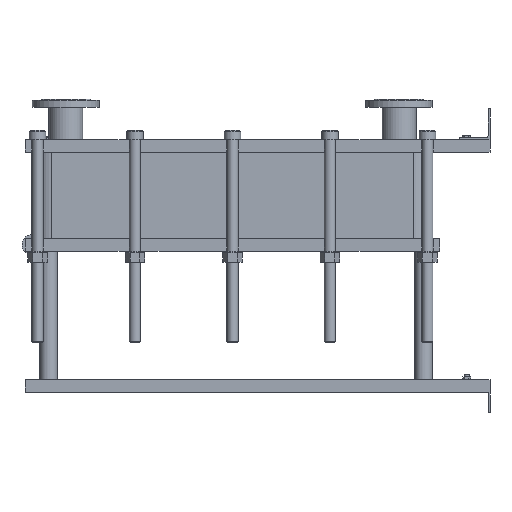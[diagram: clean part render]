
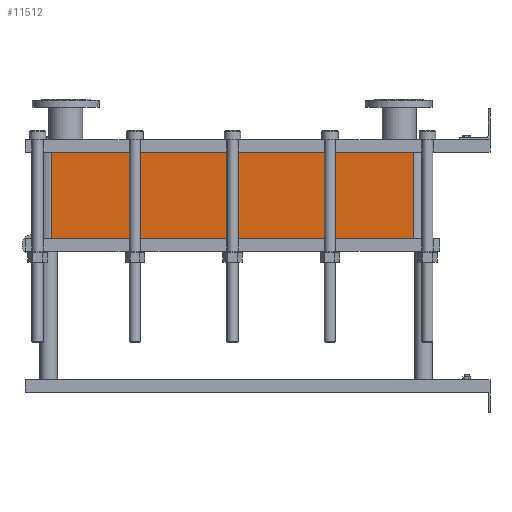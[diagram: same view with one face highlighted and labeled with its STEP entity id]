
A CAD part, left-side view. The second image highlights one B-rep face of the part: STEP entity #11512.
In plain terms, the highlighted planar face has unit normal (-1, 0, 0).
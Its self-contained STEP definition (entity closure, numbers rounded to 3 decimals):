
#1129=LINE('',#23232,#2102);
#1130=LINE('',#23236,#2103);
#1131=LINE('',#23238,#2104);
#1132=LINE('',#23239,#2105);
#2102=VECTOR('',#15887,10.);
#2103=VECTOR('',#15892,10.);
#2104=VECTOR('',#15893,10.);
#2105=VECTOR('',#15894,10.);
#3267=FACE_OUTER_BOUND('',#4093,.T.);
#4093=EDGE_LOOP('',(#10103,#10104,#10105,#10106));
#5642=VERTEX_POINT('',#23229);
#5643=VERTEX_POINT('',#23231);
#5644=VERTEX_POINT('',#23235);
#5645=VERTEX_POINT('',#23237);
#7159=EDGE_CURVE('',#5643,#5642,#1129,.T.);
#7161=EDGE_CURVE('',#5642,#5644,#1130,.T.);
#7162=EDGE_CURVE('',#5645,#5644,#1131,.T.);
#7163=EDGE_CURVE('',#5645,#5643,#1132,.T.);
#10103=ORIENTED_EDGE('',*,*,#7161,.T.);
#10104=ORIENTED_EDGE('',*,*,#7162,.F.);
#10105=ORIENTED_EDGE('',*,*,#7163,.T.);
#10106=ORIENTED_EDGE('',*,*,#7159,.T.);
#10857=PLANE('',#12751);
#11512=ADVANCED_FACE('',(#3267),#10857,.T.);
#12751=AXIS2_PLACEMENT_3D('',#23234,#15890,#15891);
#15887=DIRECTION('',(0.,0.,-1.));
#15890=DIRECTION('center_axis',(-1.,0.,0.));
#15891=DIRECTION('ref_axis',(0.,1.,0.));
#15892=DIRECTION('',(0.,-1.,0.));
#15893=DIRECTION('',(0.,0.,-1.));
#15894=DIRECTION('',(0.,1.,0.));
#23229=CARTESIAN_POINT('',(-200.,1414.,-279.45));
#23231=CARTESIAN_POINT('',(-200.,1414.,0.));
#23232=CARTESIAN_POINT('',(-200.,1414.,0.));
#23234=CARTESIAN_POINT('Origin',(-200.,248.,0.));
#23235=CARTESIAN_POINT('',(-200.,248.,-279.45));
#23236=CARTESIAN_POINT('',(-200.,539.5,-279.45));
#23237=CARTESIAN_POINT('',(-200.,248.,0.));
#23238=CARTESIAN_POINT('',(-200.,248.,0.));
#23239=CARTESIAN_POINT('',(-200.,248.,0.));
